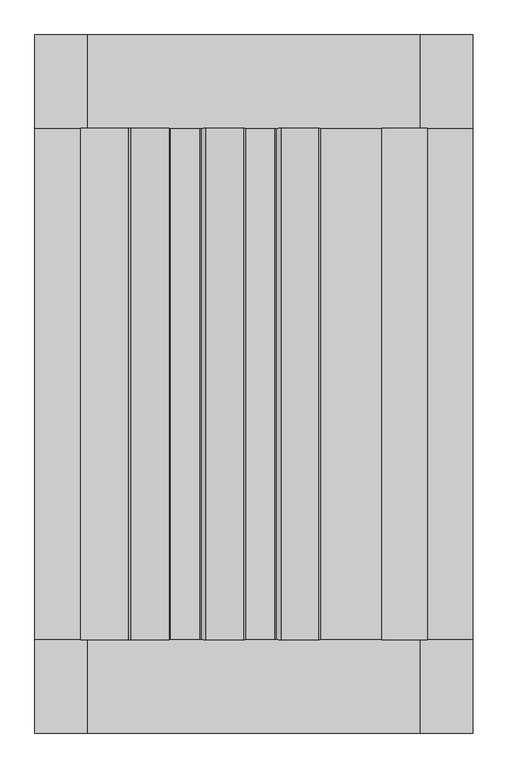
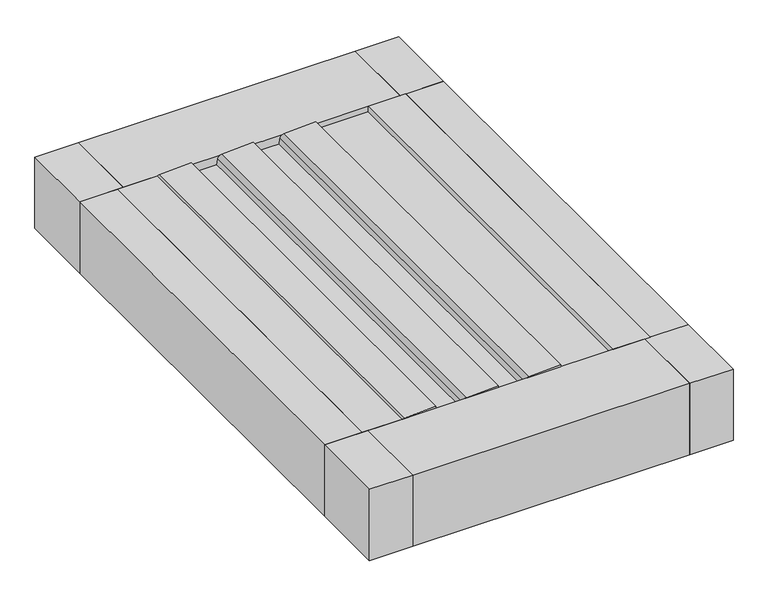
"""IFC4 building model written with IfcOpenShell, lengths in millimetres: proxy geometry, Renson_Aero_Skye_Patio covers : Aero Skye - Single."""

from ifc_helpers import new_model, si_unit, point, frame, frame_2d, origin, place, context, project, spatial, polyline, circle_curve, trimmed, segment, composite_curve, outline, extrude, source, transform, mapped, element, save


def generic_models_b334d1ae(model_context):
    return source(origin(), model_context, "Body", "SweptSolid", [
        extrude(outline(composite_curve([segment(polyline([(-41.65, -55.9044673), (-13.98802, -53.4843576), (-12.6029636, -24.6491072), (6.8911096, -28.0864383), (1.6075693, -138.0835531)]), True, "CONTINUOUS"), segment(trimmed(circle_curve(frame_2d((-13.3751565, -137.3638812)), 15.0), [point((1.6075693, -138.0835531))], [point((-10.7704338, -152.1359975))], False, "CARTESIAN"), True, "CONTINUOUS"), segment(polyline([(-10.7704338, -152.1359975), (-30.0, -155.5266888), (-30.0, -243.2624648), (-12.9211763, -246.2739223), (-13.6549818, -261.5508927), (-41.65, -264.0001395), (-41.65, -55.9044673)]), True, "CONTINUOUS")], self_intersect=False)), frame((0.0, -732.0, 0.0), z_axis=(0.0, 1.0, 0.0), x_axis=(0.0, 0.0, 1.0)), (0.0, 0.0, 1.0), 1464.0),
        extrude(outline(composite_curve([segment(polyline([(-41.65, 159.181971), (-13.98802, 161.6020806), (-12.6029636, 190.4373311), (6.8911096, 187.0), (1.6075693, 77.0028852)]), True, "CONTINUOUS"), segment(trimmed(circle_curve(frame_2d((-13.3751565, 77.7225571)), 15.0), [point((1.6075693, 77.0028852))], [point((-10.7704338, 62.9504408))], False, "CARTESIAN"), True, "CONTINUOUS"), segment(polyline([(-10.7704338, 62.9504408), (-30.0, 59.5597494), (-30.0, -28.1760266), (-12.9211763, -31.187484), (-13.6549818, -46.4644545), (-41.65, -48.9137012), (-41.65, 159.181971)]), True, "CONTINUOUS")], self_intersect=False)), frame((0.0, -732.0, 0.0), z_axis=(0.0, 1.0, 0.0), x_axis=(0.0, 0.0, 1.0)), (0.0, 0.0, 1.0), 1464.0),
        extrude(outline(composite_curve([segment(polyline([(-41.65, -270.9909055), (-13.98802, -268.5707959), (-12.6029636, -239.7355454), (6.8911096, -243.1728765), (1.6075693, -353.1699914)]), True, "CONTINUOUS"), segment(trimmed(circle_curve(frame_2d((-13.3751565, -352.4503194)), 15.0), [point((1.6075693, -353.1699914))], [point((-10.7704338, -367.2224357))], False, "CARTESIAN"), True, "CONTINUOUS"), segment(polyline([(-10.7704338, -367.2224357), (-30.0, -370.6131271), (-30.0, -458.3489031), (-12.9211763, -461.3603605), (-13.6549818, -476.637331), (-41.65, -479.0865777), (-41.65, -270.9909055)]), True, "CONTINUOUS")], self_intersect=False)), frame((0.0, -732.0, 0.0), z_axis=(0.0, 1.0, 0.0), x_axis=(0.0, 0.0, 1.0)), (0.0, 0.0, 1.0), 1464.0),
        extrude(outline(polyline([(-63.35, 497.0), (0.0, 497.0), (0.0, 367.5), (-20.0, 367.5), (-20.0, 187.0), (-44.0, 187.0), (-44.0, 337.0), (-63.35, 337.0), (-63.35, 497.0)])), frame((0.0, -732.0, 0.0), z_axis=(0.0, 1.0, 0.0), x_axis=(0.0, 0.0, 1.0)), (0.0, 0.0, 1.0), 1464.0),
        extrude(outline(polyline([(0.0, -337.0), (0.0, -497.0), (-44.0, -497.0), (-44.0, -364.3193336), (-10.8283397, -361.4171894), (-9.655498, -337.0), (0.0, -337.0)])), frame((0.0, -732.0, 0.0), z_axis=(0.0, 1.0, 0.0), x_axis=(0.0, 0.0, 1.0)), (0.0, 0.0, 1.0), 1464.0),
        extrude(outline(polyline([(628.0, -1000.0), (478.0, -1000.0), (478.0, -732.0), (628.0, -732.0), (628.0, -1000.0)])), frame((0.0, 0.0, -260.0), z_axis=(0.0, 0.0, 1.0), x_axis=(1.0, 0.0, 0.0)), (0.0, 0.0, 1.0), 260.0),
        extrude(outline(polyline([(-628.0, -1000.0), (-628.0, -732.0), (-478.0, -732.0), (-478.0, -1000.0), (-628.0, -1000.0)])), frame((0.0, 0.0, -260.0), z_axis=(0.0, 0.0, 1.0), x_axis=(1.0, 0.0, 0.0)), (0.0, 0.0, 1.0), 260.0),
        extrude(outline(polyline([(-478.0, 732.0), (-628.0, 732.0), (-628.0, 1000.0), (-478.0, 1000.0), (-478.0, 732.0)])), frame((0.0, 0.0, -260.0), z_axis=(0.0, 0.0, 1.0), x_axis=(1.0, 0.0, 0.0)), (0.0, 0.0, 1.0), 260.0),
        extrude(outline(polyline([(628.0, 1000.0), (628.0, 732.0), (478.0, 732.0), (478.0, 1000.0), (628.0, 1000.0)])), frame((0.0, 0.0, -260.0), z_axis=(0.0, 0.0, 1.0), x_axis=(1.0, 0.0, 0.0)), (0.0, 0.0, 1.0), 260.0),
        extrude(outline(polyline([(-732.0, -188.0), (-670.0, -188.0), (-670.0, -260.0), (-1000.0, -260.0), (-1000.0, 0.0), (-732.0, 0.0), (-732.0, -188.0)])), frame((-478.0, 0.0, 0.0), z_axis=(1.0, 0.0, 0.0), x_axis=(0.0, 1.0, 0.0)), (0.0, 0.0, 1.0), 956.0),
        extrude(outline(polyline([(732.0, -188.0), (732.0, 0.0), (1000.0, 0.0), (1000.0, -260.0), (670.0, -260.0), (670.0, -188.0), (732.0, -188.0)])), frame((-478.0, 0.0, 0.0), z_axis=(1.0, 0.0, 0.0), x_axis=(0.0, 1.0, 0.0)), (0.0, 0.0, 1.0), 956.0),
        extrude(outline(polyline([(-64.0, 497.0), (-64.0, 478.0), (-260.0, 478.0), (-260.0, 628.0), (0.0, 628.0), (0.0, 497.0), (-64.0, 497.0)])), frame((0.0, -732.0, 0.0), z_axis=(0.0, 1.0, 0.0), x_axis=(0.0, 0.0, 1.0)), (0.0, 0.0, 1.0), 1464.0),
        extrude(outline(polyline([(-64.0, -497.0), (0.0, -497.0), (0.0, -628.0), (-260.0, -628.0), (-260.0, -478.0), (-64.0, -478.0), (-64.0, -497.0)])), frame((0.0, -732.0, 0.0), z_axis=(0.0, 1.0, 0.0), x_axis=(0.0, 0.0, 1.0)), (0.0, 0.0, 1.0), 1464.0),
    ])


if __name__ == "__main__":
    model = new_model("IFC4")
    model_context = context("Model", 3, world=origin())
    ifc_project = project(units=[si_unit("LENGTHUNIT", "METRE", prefix="MILLI")], contexts=[model_context])
    site = spatial("IfcSite", under=ifc_project)
    building = spatial("IfcBuilding", under=site)
    placement = place(None, origin())
    generic_models_shape = generic_models_b334d1ae(model_context)
    element("IfcBuildingElementProxy", 1, Name="Renson_Aero_Skye_Patio covers : Aero Skye - Single", ObjectType="Renson_Aero_Skye_Patio covers : Aero Skye - Single", at=placement, inside=building, context=model_context, shape_type="MappedRepresentation", body=[
        mapped(generic_models_shape, transform((0.0, 0.0, 0.0), x_axis=(1.0, 0.0, 0.0), y_axis=(0.0, 1.0, 0.0), z_axis=(0.0, 0.0, 1.0))),
    ])
    save(model, "model.ifc")
